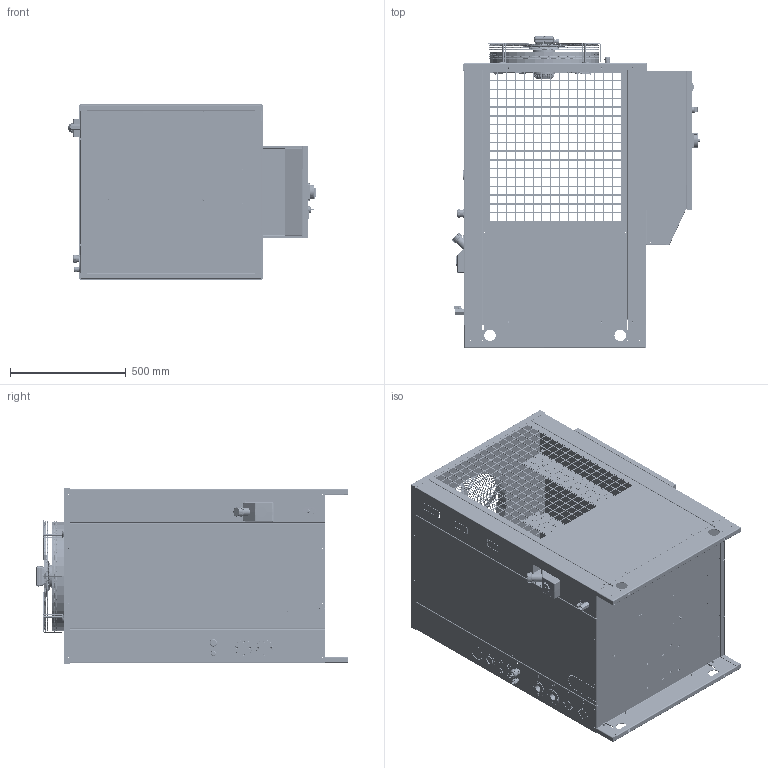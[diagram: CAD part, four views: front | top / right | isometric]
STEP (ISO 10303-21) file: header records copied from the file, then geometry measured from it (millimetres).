
FILE_DESCRIPTION (( 'STEP AP214' ), '1' );
FILE_NAME ('50-2D-00009 + UL-CSA.STEP', '2018-12-12T10:50:39', ( 'Utente' ), ( 'Microsoft' ), 'SwSTEP 2.0', 'SolidWorks 2013', '' );
FILE_SCHEMA (( 'AUTOMOTIVE_DESIGN' ));
Length unit declared in the file: millimetre
Products named in the file (75): 6D-400-S-040-3_1; VR-2D-00005_001; QE 400x600x200 + COMPONENTI; PG 13.5_Cable-Gland-1.209.1300.14-Nelco; JUNCTION-BOX-7_ASM; VR-2D-00008_001; DED965FB-6F17-44D8-8B5E-7FBD67AD56EC; PG 13.5_1_Socket-1.209.1300.14-Nelco; 8UF-TOPCOVER-1; SW3dPS-rotary switch_Dial; PG 13.5_2_Nut-PA-Grey-24-24-27-Nelco; WATERPROOF-1; VR-2D-00012_000; SW3dPS-rotary switch_Cowling; VR-2D-00013_001; LINKER; SW3dPS-rotary switch_Screw; 8UFCAPACITOR; VR-2D-00011_000; SW3dPS-rotary switch_Indicator Plate; VR-2D-00014_000; 8UF-CAPACITOR-1; SW3dPS-rotary switch_541-0057-B; M6X16-FL; VR-2D-00003_001; TE-EL-00007 - EW_971_230V; VR-2D-00001_002; WZ450-GA-2; Rivelox M5 Reduced Head Hexagonal Shank.; QE 400x600x200; VR-2D-00001_002B; 450-Z; VR-2D-00034_001; VR-2D-00001_002A; MA-N1-00001_MANOMETRO ACQUA 40mm 0-12 BAR; 450-Z-C-0_ASM; VA-A5-00001; CR-2D-00002_001; 350-450-031; TAPPO 1P  FEM 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
Assembly tree (159 placements, depth 5):
  50-2D-00009 + UL-CSA
    VR-2D-00003_001
      VR-2D-00003_001
      Rivelox M5 Reduced Head Hexagonal Shank.  x24
    VR-2D-00011_000
      VR-2D-00011_000
      Rivelox M5 Reduced Head Hexagonal Shank.  x8
    VR-2D-00012_000
      VR-2D-00012_000
      Rivelox M5 Reduced Head Hexagonal Shank.  x8
    VR-2D-00008_001
      VR-2D-00008_001
      Rivelox M5 Reduced Head Hexagonal Shank.  x2
    VR-2D-00005_001  x2
      VR-2D-00005_001
      Rivelox M5 Reduced Head Hexagonal Shank.
    VR-3D-00021_000
    CR-2D-00010_001
      CR-2D-00010_001
      RIVELOX M5  x6
    CR-2D-00009_001
      CR-2D-00009_001
      RIVELOX M5  x6
    CR-2D-00002_001
      CR-2D-00002_001
      RIVELOX M5  x6
    VR-2D-00001_002
      VR-2D-00001_002A
      VR-2D-00001_002B
    VR-2D-00014_000
      VR-2D-00014_000
      Rivelox M5 Reduced Head Hexagonal Shank.  x5
    VR-2D-00013_001
      VR-2D-00013_001
      Rivelox M5 Reduced Head Hexagonal Shank.  x5
    PG 13.5_Cable-Gland-1.209.1300.14-Nelco  x2
      PG 13.5_2_Nut-PA-Grey-24-24-27-Nelco
      PG 13.5_1_Socket-1.209.1300.14-Nelco
    ST-AT-00020_003  x2
    VE-W3-00002_000
      450-Z-C-0_ASM
        450-021-C-Z_ASM
          450-021-011_AF0
          6D-400-S-018-2_22_AF0
          PRT0002_11_AF0
          6D-400-S-012_2_AF0
        450-SHAFT
        450-012-C
        350-450-031
      450-Z  x5
      WZ450-GA-2
      M6X16-FL  x4
      JUNCTION-BOX-7_ASM
        8UF-CAPACITOR-1
        8UFCAPACITOR
        LINKER
        WATERPROOF-1
        8UF-TOPCOVER-1
      CXZ-M16_ASM_ASM
        CXZ-M16_ASM_1_ASM
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Bounding box: 1070.87 x 1349.06 x 756.5 mm (x, y, z)
Volume: 14694493.6 mm3; surface area: 16327226.2 mm2
Topology: 182 solids, 184 shells, 16381 faces, 42383 edges, 26408 vertices
Faces by surface type: plane 8219, bspline 3594, cylinder 3386, cone 976, torus 165, sphere 41
Entity records: 567502 total; most frequent: CARTESIAN_POINT 271896, ORIENTED_EDGE 66222, DIRECTION 49451, EDGE_CURVE 33111, VERTEX_POINT 20717, VECTOR 16801, LINE 16801, AXIS2_PLACEMENT_3D 16325
